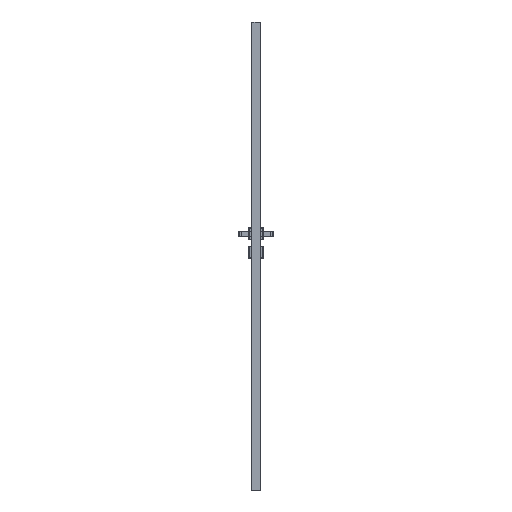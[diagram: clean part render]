
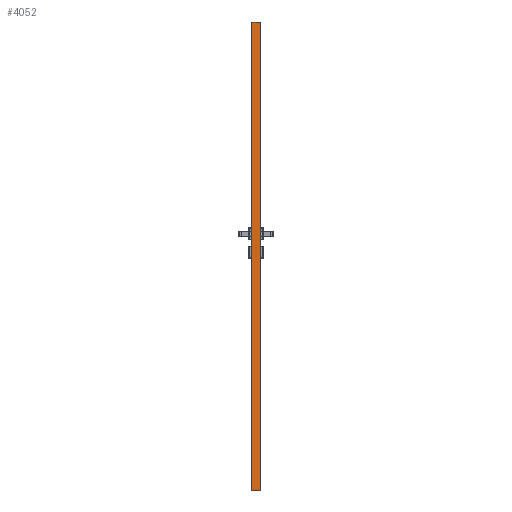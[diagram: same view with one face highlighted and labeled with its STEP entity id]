
A CAD part, left-side view. The second image highlights one B-rep face of the part: STEP entity #4052.
In plain terms, the highlighted planar face has unit normal (-1, 0, 0).
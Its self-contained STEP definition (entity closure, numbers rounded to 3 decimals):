
#4052=ADVANCED_FACE('',(#7976),#6352,.T.);
#6352=PLANE('',#44640);
#7976=FACE_OUTER_BOUND('',#10446,.T.);
#10446=EDGE_LOOP('',(#14484,#14485,#14486,#14487));
#14484=ORIENTED_EDGE('',*,*,#30192,.T.);
#14485=ORIENTED_EDGE('',*,*,#30173,.F.);
#14486=ORIENTED_EDGE('',*,*,#30194,.F.);
#14487=ORIENTED_EDGE('',*,*,#30195,.T.);
#25875=VERTEX_POINT('',#65264);
#25876=VERTEX_POINT('',#65266);
#25889=VERTEX_POINT('',#65302);
#25890=VERTEX_POINT('',#65306);
#30173=EDGE_CURVE('',#25875,#25876,#36014,.T.);
#30192=EDGE_CURVE('',#25889,#25876,#36026,.T.);
#30194=EDGE_CURVE('',#25890,#25875,#36027,.T.);
#30195=EDGE_CURVE('',#25890,#25889,#36028,.T.);
#36014=LINE('',#65265,#40282);
#36026=LINE('',#65301,#40294);
#36027=LINE('',#65305,#40295);
#36028=LINE('',#65307,#40296);
#40282=VECTOR('',#49892,1.);
#40294=VECTOR('',#49926,1.);
#40295=VECTOR('',#49931,1.);
#40296=VECTOR('',#49932,1.);
#44640=AXIS2_PLACEMENT_3D('',#65308,#49933,#49934);
#49892=DIRECTION('',(0.,-1.,0.));
#49926=DIRECTION('',(0.,0.,1.));
#49931=DIRECTION('',(0.,0.,1.));
#49932=DIRECTION('',(0.,-1.,0.));
#49933=DIRECTION('',(-1.,0.,0.));
#49934=DIRECTION('',(0.,-1.,0.));
#65264=CARTESIAN_POINT('',(-309.,-1.65,2017.01));
#65265=CARTESIAN_POINT('',(-309.,0.,2017.01));
#65266=CARTESIAN_POINT('',(-309.,-38.35,2017.01));
#65301=CARTESIAN_POINT('',(-309.,-38.35,0.));
#65302=CARTESIAN_POINT('',(-309.,-38.35,0.));
#65305=CARTESIAN_POINT('',(-309.,-1.65,0.));
#65306=CARTESIAN_POINT('',(-309.,-1.65,0.));
#65307=CARTESIAN_POINT('',(-309.,-1.65,0.));
#65308=CARTESIAN_POINT('',(-309.,-1.65,0.));
